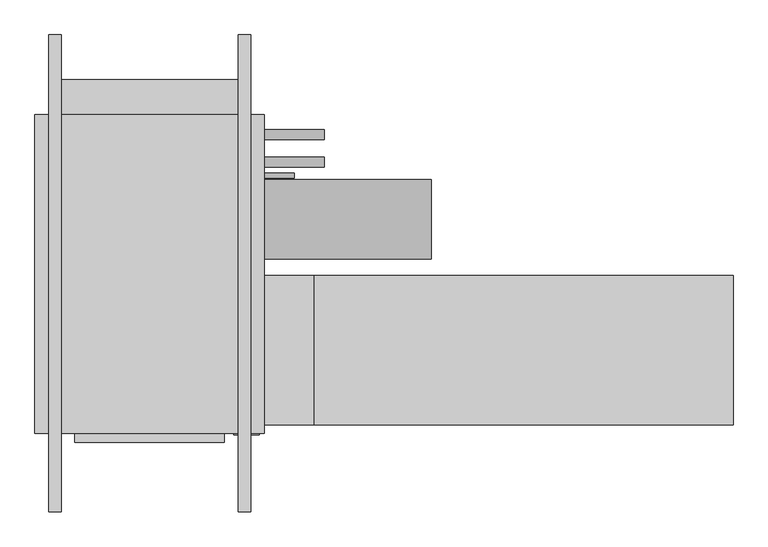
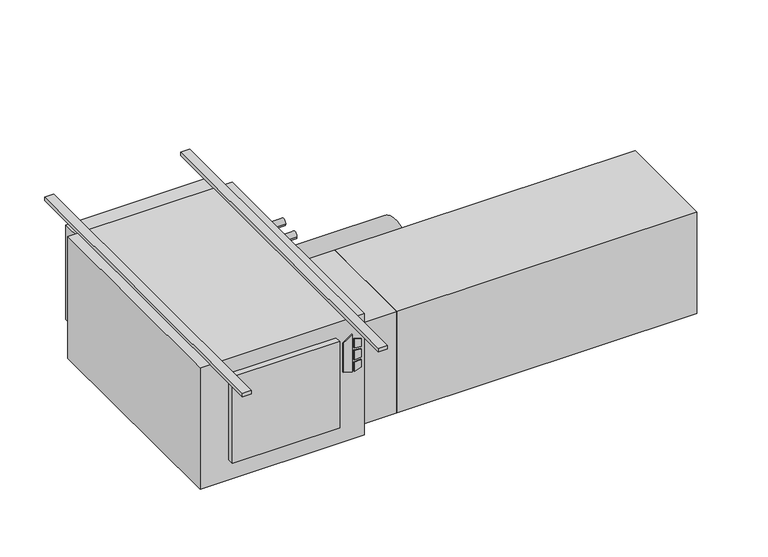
"""IFC4 building model written with IfcOpenShell, lengths in millimetres: proxy geometry."""

from ifc_helpers import new_model, si_unit, point, frame, frame_2d, origin, origin_with_axes, place, context, project, spatial, polyline, circle_curve, trimmed, segment, composite_curve, outline, extrude, source, transform, mapped, element, save


def mechanical_equipment_46e4027d(model_context):
    return source(origin(), model_context, "Body", "SweptSolid", [
        extrude(outline(polyline([(-193.2519297, 366.7868862), (-203.2, 398.9602728), (-61.0290756, 398.9602728), (-84.0510817, 366.7868862), (-193.2519297, 366.7868862)])), frame((0.0, -647.7, 0.0), z_axis=(0.0, 1.0, 0.0), x_axis=(0.0, 0.0, 1.0)), (0.0, 0.0, 1.0), 3.175),
        extrude(outline(polyline([(-114.2526443, 405.7186058), (-117.4550368, 431.8), (-88.2261958, 431.8), (-80.1617807, 405.7186058), (-114.2526443, 405.7186058)])), frame((0.0, -647.7, 0.0), z_axis=(0.0, 1.0, 0.0), x_axis=(0.0, 0.0, 1.0)), (0.0, 0.0, 1.0), 3.175),
        extrude(outline(polyline([(-166.1161712, 431.8), (-169.7816721, 405.7186058), (-203.2, 405.7186058), (-194.5657628, 431.8), (-166.1161712, 431.8)])), frame((0.0, -647.7, 0.0), z_axis=(0.0, 1.0, 0.0), x_axis=(0.0, 0.0, 1.0)), (0.0, 0.0, 1.0), 3.175),
        extrude(outline(polyline([(-126.8010097, 431.8), (-124.5191834, 405.7186058), (-160.4567319, 405.7186058), (-157.7154669, 431.8), (-126.8010097, 431.8)])), frame((0.0, -647.7, 0.0), z_axis=(0.0, 1.0, 0.0), x_axis=(0.0, 0.0, 1.0)), (0.0, 0.0, 1.0), 3.175),
        extrude(outline(polyline([(342.9, -666.877), (-38.1, -666.877), (-38.1, -644.525), (342.9, -644.525), (342.9, -666.877)])), frame((0.0, 0.0, -381.0), z_axis=(0.0, 0.0, 1.0), x_axis=(1.0, 0.0, 0.0)), (0.0, 0.0, 1.0), 323.85),
        extrude(outline(polyline([(1638.3, -241.3), (1638.3, -622.3), (571.5, -622.3), (571.5, -241.3), (1638.3, -241.3)])), frame((0.0, 0.0, -431.8), z_axis=(0.0, 0.0, 1.0), x_axis=(1.0, 0.0, 0.0)), (0.0, 0.0, 1.0), 381.0),
        extrude(outline(polyline([(571.5, -241.3), (571.5, -622.3), (444.5, -622.3), (444.5, -241.3), (571.5, -241.3)])), frame((0.0, 0.0, -431.8), z_axis=(0.0, 0.0, 1.0), x_axis=(1.0, 0.0, 0.0)), (0.0, 0.0, 1.0), 381.0),
        extrude(outline(composite_curve([segment(trimmed(circle_curve(frame_2d((117.475, -171.45)), 12.7), [point((130.175, -171.45))], [point((104.775, -171.45))], False, "CARTESIAN"), True, "CONTINUOUS"), segment(trimmed(circle_curve(frame_2d((117.475, -171.45)), 12.7), [point((104.775, -171.45))], [point((130.175, -171.45))], False, "CARTESIAN"), True, "CONTINUOUS")], self_intersect=False)), frame((444.5, 0.0, 0.0), z_axis=(1.0, 0.0, 0.0), x_axis=(0.0, 1.0, 0.0)), (0.0, 0.0, 1.0), 152.4),
        extrude(outline(composite_curve([segment(trimmed(circle_curve(frame_2d((47.625, -177.8)), 12.7), [point((60.325, -177.8))], [point((34.925, -177.8))], False, "CARTESIAN"), True, "CONTINUOUS"), segment(trimmed(circle_curve(frame_2d((47.625, -177.8)), 12.7), [point((34.925, -177.8))], [point((60.325, -177.8))], False, "CARTESIAN"), True, "CONTINUOUS")], self_intersect=False)), frame((444.5, 0.0, 0.0), z_axis=(1.0, 0.0, 0.0), x_axis=(0.0, 1.0, 0.0)), (0.0, 0.0, 1.0), 152.4),
        extrude(outline(composite_curve([segment(trimmed(circle_curve(frame_2d((-98.4896516, -228.6360165)), 101.6), [point((3.1103484, -228.6360165))], [point((-200.0896516, -228.6360165))], False, "CARTESIAN"), True, "CONTINUOUS"), segment(trimmed(circle_curve(frame_2d((-98.4896516, -228.6360165)), 101.6), [point((-200.0896516, -228.6360165))], [point((3.1103484, -228.6360165))], False, "CARTESIAN"), True, "CONTINUOUS")], self_intersect=False)), frame((444.5, 0.0, 0.0), z_axis=(1.0, 0.0, 0.0), x_axis=(0.0, 1.0, 0.0)), (0.0, 0.0, 1.0), 425.45),
        extrude(outline(composite_curve([segment(trimmed(circle_curve(frame_2d((12.7, -409.575)), 6.35), [point((19.05, -409.575))], [point((6.35, -409.575))], False, "CARTESIAN"), True, "CONTINUOUS"), segment(trimmed(circle_curve(frame_2d((12.7, -409.575)), 6.35), [point((6.35, -409.575))], [point((19.05, -409.575))], False, "CARTESIAN"), True, "CONTINUOUS")], self_intersect=False)), frame((444.5, 0.0, 0.0), z_axis=(1.0, 0.0, 0.0), x_axis=(0.0, 1.0, 0.0)), (0.0, 0.0, 1.0), 76.2),
        extrude(outline(polyline([(444.5, 168.275), (444.5, -644.525), (-139.7, -644.525), (-139.7, 168.275), (444.5, 168.275)])), frame((0.0, 0.0, -457.2), z_axis=(0.0, 0.0, 1.0), x_axis=(1.0, 0.0, 0.0)), (0.0, 0.0, 1.0), 457.2),
        extrude(outline(polyline([(-95.25, 257.175), (400.05, 257.175), (400.05, 168.275), (-95.25, 168.275), (-95.25, 257.175)])), frame((0.0, 0.0, -381.0), z_axis=(0.0, 0.0, 1.0), x_axis=(1.0, 0.0, 0.0)), (0.0, 0.0, 1.0), 355.6),
        extrude(outline(polyline([(-73.025, 371.475), (-73.025, -844.677), (-104.775, -844.677), (-104.775, 371.475), (-73.025, 371.475)])), origin_with_axes(), (0.0, 0.0, 1.0), 12.7),
        extrude(outline(polyline([(409.575, 371.475), (409.575, -844.677), (377.825, -844.677), (377.825, 371.475), (409.575, 371.475)])), origin_with_axes(), (0.0, 0.0, 1.0), 12.7),
    ])


if __name__ == "__main__":
    model = new_model("IFC4")
    model_context = context("Model", 3, world=origin())
    ifc_project = project(units=[si_unit("LENGTHUNIT", "METRE", prefix="MILLI")], contexts=[model_context])
    site = spatial("IfcSite", under=ifc_project)
    building = spatial("IfcBuilding", under=site)
    placement = place(None, origin())
    mechanical_equipment_shape = mechanical_equipment_46e4027d(model_context)
    element("IfcBuildingElementProxy", 1, Name="High_Capacity_Horizontal_Cabinet_Fan_Coil_Unit_-_HTY_-_IEC_-_2-Pipe_WO-Attenuator_RH Side_2022 : Size 06 - 277v/60Hz/1Ph - 8/0 Coil - 8\" AirIn", ObjectType="High_Capacity_Horizontal_Cabinet_Fan_Coil_Unit_-_HTY_-_IEC_-_2-Pipe_WO-Attenuator_RH Side_2022 : Size 06 - 277v/60Hz/1Ph - 8/0 Coil - 8\" AirIn", at=placement, inside=building, context=model_context, shape_type="MappedRepresentation", body=[
        mapped(mechanical_equipment_shape, transform((0.0, 0.0, 0.0), x_axis=(1.0, 0.0, 0.0), y_axis=(0.0, 1.0, 0.0), z_axis=(0.0, 0.0, 1.0))),
    ])
    save(model, "model.ifc")
